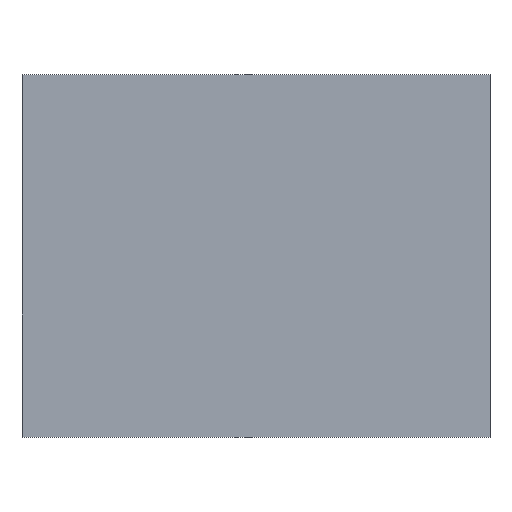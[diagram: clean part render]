
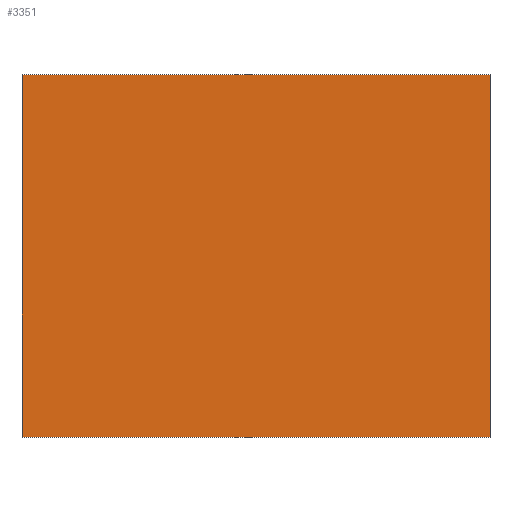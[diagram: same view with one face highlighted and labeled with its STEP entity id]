
A CAD part, top view. The second image highlights one B-rep face of the part: STEP entity #3351.
In plain terms, the highlighted planar face has unit normal (0, 0, 1).
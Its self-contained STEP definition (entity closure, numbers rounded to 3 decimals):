
#3215=CARTESIAN_POINT('Vertex',(111.,86.,42.)) ;
#3229=CARTESIAN_POINT('Vertex',(-111.,86.,42.)) ;
#3232=CARTESIAN_POINT('Line Origine',(0.,86.,42.)) ;
#3260=CARTESIAN_POINT('Vertex',(-111.,-86.,42.)) ;
#3263=CARTESIAN_POINT('Line Origine',(-111.,0.,42.)) ;
#3291=CARTESIAN_POINT('Vertex',(111.,-86.,42.)) ;
#3294=CARTESIAN_POINT('Line Origine',(0.,-86.,42.)) ;
#3316=CARTESIAN_POINT('Line Origine',(111.,0.,42.)) ;
#3340=CARTESIAN_POINT('Axis2P3D Location',(0.,0.,42.)) ;
#3233=DIRECTION('Vector Direction',(1.,0.,0.)) ;
#3264=DIRECTION('Vector Direction',(0.,1.,0.)) ;
#3295=DIRECTION('Vector Direction',(-1.,0.,0.)) ;
#3317=DIRECTION('Vector Direction',(0.,-1.,0.)) ;
#3341=DIRECTION('Axis2P3D Direction',(0.,0.,1.)) ;
#3342=DIRECTION('Axis2P3D XDirection',(1.,0.,0.)) ;
#3343=AXIS2_PLACEMENT_3D('Plane Axis2P3D',#3340,#3341,#3342) ;
#3346=ORIENTED_EDGE('',*,*,#3236,.T.) ;
#3347=ORIENTED_EDGE('',*,*,#3267,.T.) ;
#3348=ORIENTED_EDGE('',*,*,#3298,.T.) ;
#3349=ORIENTED_EDGE('',*,*,#3320,.T.) ;
#3234=VECTOR('Line Direction',#3233,1.) ;
#3265=VECTOR('Line Direction',#3264,1.) ;
#3296=VECTOR('Line Direction',#3295,1.) ;
#3318=VECTOR('Line Direction',#3317,1.) ;
#3351=ADVANCED_FACE('cavity',(#3350),#3344,.T.) ;
#3236=EDGE_CURVE('',#3216,#3230,#3235,.F.) ;
#3267=EDGE_CURVE('',#3230,#3261,#3266,.F.) ;
#3298=EDGE_CURVE('',#3261,#3292,#3297,.F.) ;
#3320=EDGE_CURVE('',#3292,#3216,#3319,.F.) ;
#3345=EDGE_LOOP('',(#3346,#3347,#3348,#3349)) ;
#3350=FACE_OUTER_BOUND('',#3345,.T.) ;
#3235=LINE('Line',#3232,#3234) ;
#3266=LINE('Line',#3263,#3265) ;
#3297=LINE('Line',#3294,#3296) ;
#3319=LINE('Line',#3316,#3318) ;
#3344=PLANE('Plane',#3343) ;
#3216=VERTEX_POINT('',#3215) ;
#3230=VERTEX_POINT('',#3229) ;
#3261=VERTEX_POINT('',#3260) ;
#3292=VERTEX_POINT('',#3291) ;
